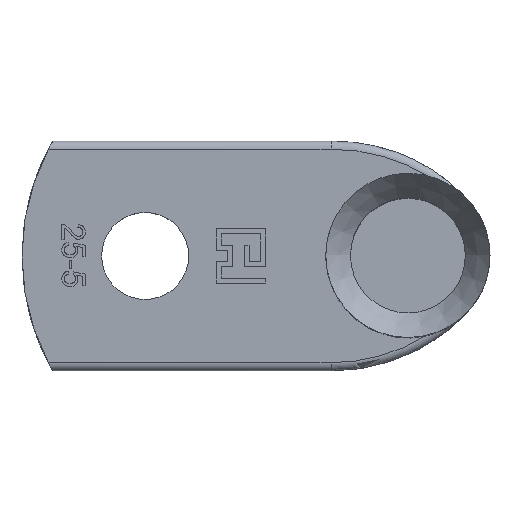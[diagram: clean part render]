
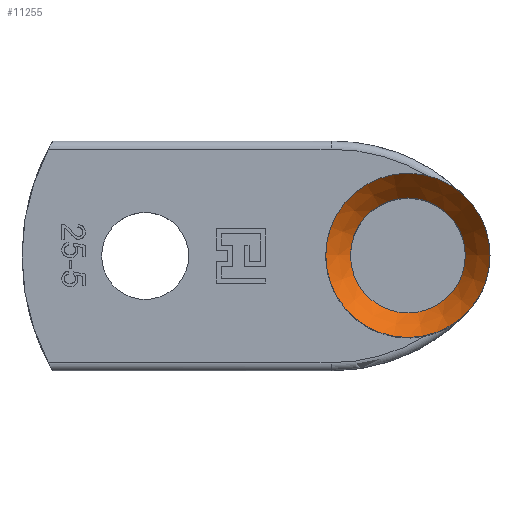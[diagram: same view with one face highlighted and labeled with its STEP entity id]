
A CAD part, top view. The second image highlights one B-rep face of the part: STEP entity #11255.
In plain terms, the highlighted conical face has half-angle 36.87 degrees and reference radius 3.5 mm.
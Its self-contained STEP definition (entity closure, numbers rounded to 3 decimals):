
#140 = CYLINDRICAL_SURFACE('',#141,5.);
#141 = AXIS2_PLACEMENT_3D('',#142,#143,#144);
#142 = CARTESIAN_POINT('',(23.5,0.,7.861));
#143 = DIRECTION('',(-0.,-0.,-1.));
#144 = DIRECTION('',(1.,0.,0.));
#11204 = VERTEX_POINT('',#11205);
#11205 = CARTESIAN_POINT('',(28.5,0.,22.861));
#11225 = EDGE_CURVE('',#11204,#11204,#11226,.T.);
#11226 = SURFACE_CURVE('',#11227,(#11232,#11239),.PCURVE_S1.);
#11227 = CIRCLE('',#11228,5.);
#11228 = AXIS2_PLACEMENT_3D('',#11229,#11230,#11231);
#11229 = CARTESIAN_POINT('',(23.5,0.,22.861));
#11230 = DIRECTION('',(0.,0.,1.));
#11231 = DIRECTION('',(1.,0.,0.));
#11232 = PCURVE('',#140,#11233);
#11233 = DEFINITIONAL_REPRESENTATION('',(#11234),#11238);
#11234 = LINE('',#11235,#11236);
#11235 = CARTESIAN_POINT('',(-0.,-15.));
#11236 = VECTOR('',#11237,1.);
#11237 = DIRECTION('',(-1.,0.));
#11238 = ( GEOMETRIC_REPRESENTATION_CONTEXT(2) 
PARAMETRIC_REPRESENTATION_CONTEXT() REPRESENTATION_CONTEXT('2D SPACE',''
  ) );
#11239 = PCURVE('',#11240,#11245);
#11240 = CONICAL_SURFACE('',#11241,3.5,0.644);
#11241 = AXIS2_PLACEMENT_3D('',#11242,#11243,#11244);
#11242 = CARTESIAN_POINT('',(23.5,0.,20.861));
#11243 = DIRECTION('',(0.,0.,1.));
#11244 = DIRECTION('',(1.,0.,0.));
#11245 = DEFINITIONAL_REPRESENTATION('',(#11246),#11249);
#11246 = B_SPLINE_CURVE_WITH_KNOTS('',1,(#11247,#11248),.UNSPECIFIED.,
  .F.,.F.,(2,2),(0.,6.283),.PIECEWISE_BEZIER_KNOTS.);
#11247 = CARTESIAN_POINT('',(0.,2.));
#11248 = CARTESIAN_POINT('',(6.283,2.));
#11249 = ( GEOMETRIC_REPRESENTATION_CONTEXT(2) 
PARAMETRIC_REPRESENTATION_CONTEXT() REPRESENTATION_CONTEXT('2D SPACE',''
  ) );
#11255 = ADVANCED_FACE('',(#11256),#11240,.F.);
#11256 = FACE_BOUND('',#11257,.F.);
#11257 = EDGE_LOOP('',(#11258,#11259,#11282,#11309));
#11258 = ORIENTED_EDGE('',*,*,#11225,.F.);
#11259 = ORIENTED_EDGE('',*,*,#11260,.F.);
#11260 = EDGE_CURVE('',#11261,#11204,#11263,.T.);
#11261 = VERTEX_POINT('',#11262);
#11262 = CARTESIAN_POINT('',(27.,0.,20.861));
#11263 = SEAM_CURVE('',#11264,(#11268,#11275),.PCURVE_S1.);
#11264 = LINE('',#11265,#11266);
#11265 = CARTESIAN_POINT('',(27.,0.,20.861));
#11266 = VECTOR('',#11267,1.);
#11267 = DIRECTION('',(0.6,0.,0.8));
#11268 = PCURVE('',#11240,#11269);
#11269 = DEFINITIONAL_REPRESENTATION('',(#11270),#11274);
#11270 = LINE('',#11271,#11272);
#11271 = CARTESIAN_POINT('',(6.283,-0.));
#11272 = VECTOR('',#11273,1.);
#11273 = DIRECTION('',(0.,1.));
#11274 = ( GEOMETRIC_REPRESENTATION_CONTEXT(2) 
PARAMETRIC_REPRESENTATION_CONTEXT() REPRESENTATION_CONTEXT('2D SPACE',''
  ) );
#11275 = PCURVE('',#11240,#11276);
#11276 = DEFINITIONAL_REPRESENTATION('',(#11277),#11281);
#11277 = LINE('',#11278,#11279);
#11278 = CARTESIAN_POINT('',(0.,-0.));
#11279 = VECTOR('',#11280,1.);
#11280 = DIRECTION('',(0.,1.));
#11281 = ( GEOMETRIC_REPRESENTATION_CONTEXT(2) 
PARAMETRIC_REPRESENTATION_CONTEXT() REPRESENTATION_CONTEXT('2D SPACE',''
  ) );
#11282 = ORIENTED_EDGE('',*,*,#11283,.T.);
#11283 = EDGE_CURVE('',#11261,#11261,#11284,.T.);
#11284 = SURFACE_CURVE('',#11285,(#11290,#11297),.PCURVE_S1.);
#11285 = CIRCLE('',#11286,3.5);
#11286 = AXIS2_PLACEMENT_3D('',#11287,#11288,#11289);
#11287 = CARTESIAN_POINT('',(23.5,0.,20.861));
#11288 = DIRECTION('',(0.,0.,1.));
#11289 = DIRECTION('',(1.,0.,0.));
#11290 = PCURVE('',#11240,#11291);
#11291 = DEFINITIONAL_REPRESENTATION('',(#11292),#11296);
#11292 = LINE('',#11293,#11294);
#11293 = CARTESIAN_POINT('',(0.,0.));
#11294 = VECTOR('',#11295,1.);
#11295 = DIRECTION('',(1.,0.));
#11296 = ( GEOMETRIC_REPRESENTATION_CONTEXT(2) 
PARAMETRIC_REPRESENTATION_CONTEXT() REPRESENTATION_CONTEXT('2D SPACE',''
  ) );
#11297 = PCURVE('',#11298,#11303);
#11298 = CYLINDRICAL_SURFACE('',#11299,3.5);
#11299 = AXIS2_PLACEMENT_3D('',#11300,#11301,#11302);
#11300 = CARTESIAN_POINT('',(23.5,0.,7.861));
#11301 = DIRECTION('',(-0.,-0.,-1.));
#11302 = DIRECTION('',(1.,0.,0.));
#11303 = DEFINITIONAL_REPRESENTATION('',(#11304),#11308);
#11304 = LINE('',#11305,#11306);
#11305 = CARTESIAN_POINT('',(-0.,-13.));
#11306 = VECTOR('',#11307,1.);
#11307 = DIRECTION('',(-1.,0.));
#11308 = ( GEOMETRIC_REPRESENTATION_CONTEXT(2) 
PARAMETRIC_REPRESENTATION_CONTEXT() REPRESENTATION_CONTEXT('2D SPACE',''
  ) );
#11309 = ORIENTED_EDGE('',*,*,#11260,.T.);
